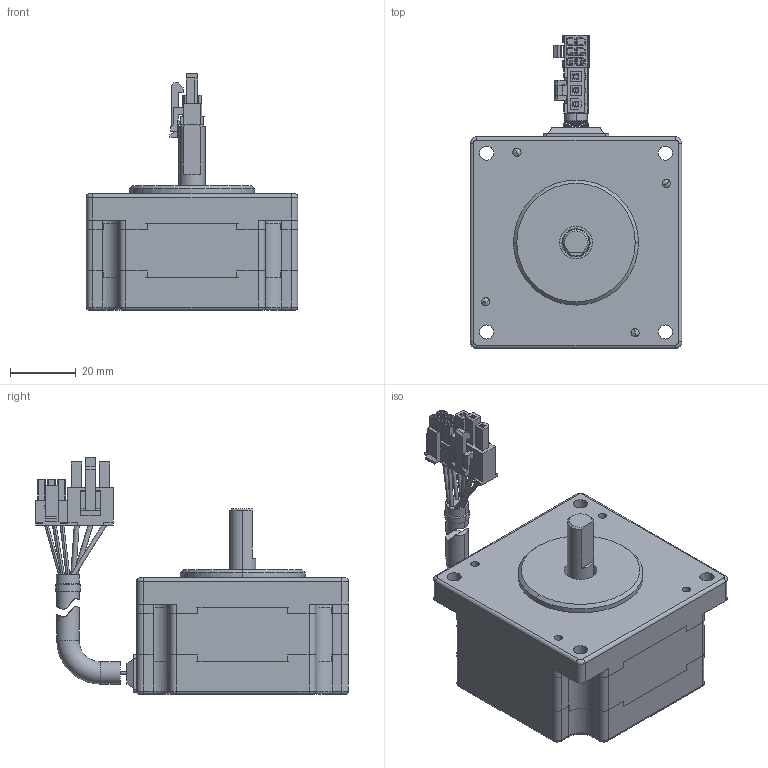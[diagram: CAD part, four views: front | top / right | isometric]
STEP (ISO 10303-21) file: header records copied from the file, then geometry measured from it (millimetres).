
FILE_DESCRIPTION (( 'STEP AP203' ), '1' );
FILE_NAME ('65BL25L2.STEP', '2018-05-31T08:14:51', ( 'User' ), ( 'China' ), 'SwSTEP 2.0', 'SolidWorks 2012', '' );
FILE_SCHEMA (( 'CONFIG_CONTROL_DESIGN' ));
Length unit declared in the file: millimetre
Products named in the file (1): 65BL25L2
Bounding box: 64.5 x 95.35 x 72.1 mm (x, y, z)
Surface area: 25997.6 mm2 (no closed solid volume)
Topology: 0 solids, 28 shells, 558 faces, 1919 edges, 1324 vertices
Faces by surface type: plane 351, cylinder 128, bspline 34, torus 28, cone 17
Entity records: 20854 total; most frequent: CARTESIAN_POINT 4348, DIRECTION 3443, ORIENTED_EDGE 3073, EDGE_CURVE 1911, LINE 1357, VECTOR 1357, VERTEX_POINT 1324, AXIS2_PLACEMENT_3D 1043
